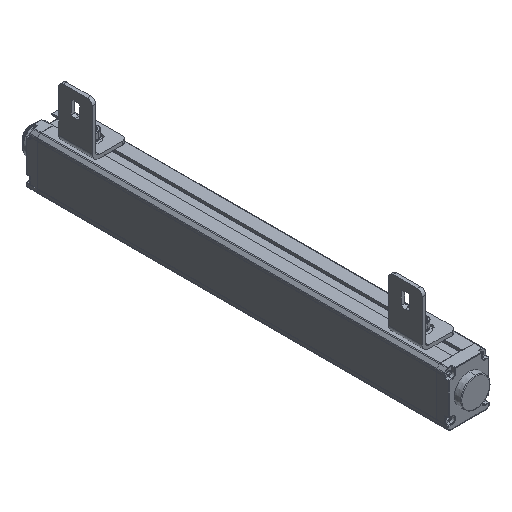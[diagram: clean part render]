
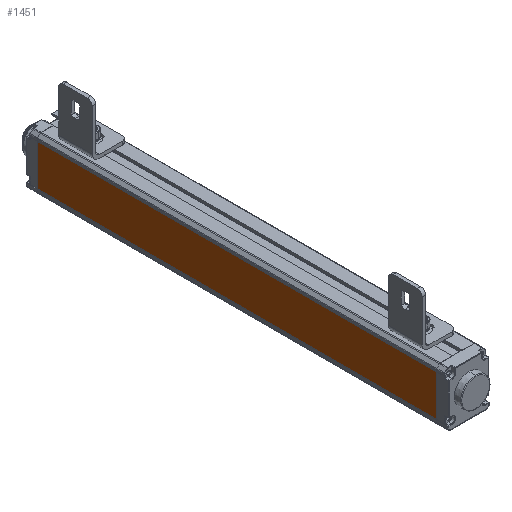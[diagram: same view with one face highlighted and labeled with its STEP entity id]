
A CAD part, isometric view. The second image highlights one B-rep face of the part: STEP entity #1451.
In plain terms, the highlighted planar face has unit normal (-1, 0, 0).
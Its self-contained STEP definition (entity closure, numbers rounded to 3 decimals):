
#24=DIRECTION('',(0.,0.,1.));
#25=VECTOR('',#24,35.4);
#26=CARTESIAN_POINT('',(-17.7,-172.5,-18.1));
#27=LINE('',#26,#25);
#361=DIRECTION('',(0.,0.,1.));
#362=VECTOR('',#361,35.4);
#363=CARTESIAN_POINT('',(-17.7,172.5,-18.1));
#364=LINE('',#363,#362);
#534=DIRECTION('',(0.,1.,0.));
#535=VECTOR('',#534,345.);
#536=CARTESIAN_POINT('',(-17.7,-172.5,17.3));
#537=LINE('',#536,#535);
#538=DIRECTION('',(0.,1.,0.));
#539=VECTOR('',#538,345.);
#540=CARTESIAN_POINT('',(-17.7,-172.5,-18.1));
#541=LINE('',#540,#539);
#613=CARTESIAN_POINT('',(-17.7,-172.5,-18.1));
#615=VERTEX_POINT('',#613);
#616=CARTESIAN_POINT('',(-17.7,-172.5,17.3));
#617=VERTEX_POINT('',#616);
#633=CARTESIAN_POINT('',(-17.7,172.5,-18.1));
#635=VERTEX_POINT('',#633);
#636=CARTESIAN_POINT('',(-17.7,172.5,17.3));
#637=VERTEX_POINT('',#636);
#1439=CARTESIAN_POINT('',(-17.7,-172.5,-18.1));
#1440=DIRECTION('',(-1.,0.,0.));
#1441=DIRECTION('',(0.,0.,1.));
#1442=AXIS2_PLACEMENT_3D('',#1439,#1440,#1441);
#1443=PLANE('',#1442);
#1444=ORIENTED_EDGE('',*,*,#741,.F.);
#1446=ORIENTED_EDGE('',*,*,#1445,.T.);
#1447=ORIENTED_EDGE('',*,*,#933,.T.);
#1448=ORIENTED_EDGE('',*,*,#1432,.F.);
#1449=EDGE_LOOP('',(#1444,#1446,#1447,#1448));
#1450=FACE_OUTER_BOUND('',#1449,.F.);
#1451=ADVANCED_FACE('',(#1450),#1443,.T.);
#741=EDGE_CURVE('',#615,#617,#27,.T.);
#933=EDGE_CURVE('',#635,#637,#364,.T.);
#1432=EDGE_CURVE('',#617,#637,#537,.T.);
#1445=EDGE_CURVE('',#615,#635,#541,.T.);
